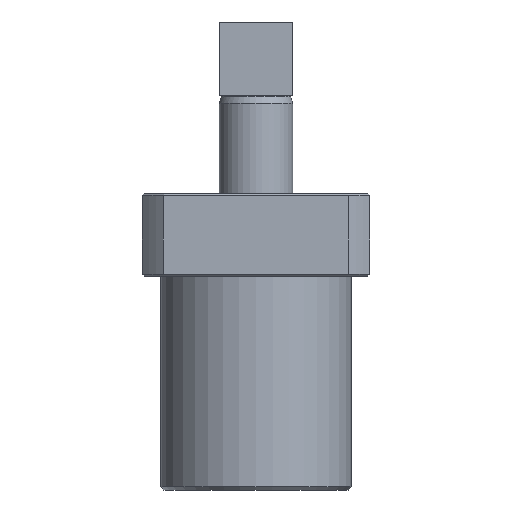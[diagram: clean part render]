
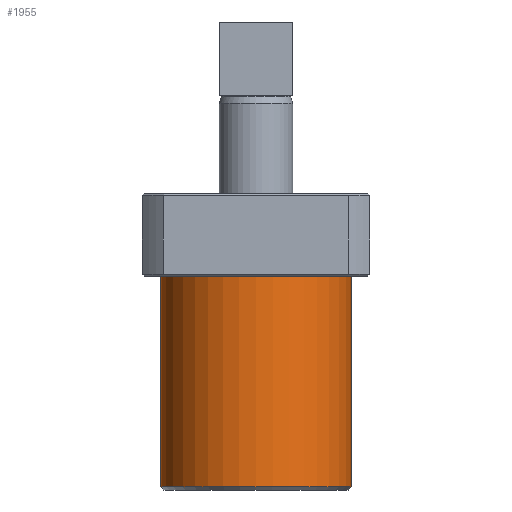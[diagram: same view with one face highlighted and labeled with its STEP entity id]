
A CAD part, front view. The second image highlights one B-rep face of the part: STEP entity #1955.
In plain terms, the highlighted cylindrical face has radius 29 mm (diameter 58 mm), a full revolution.
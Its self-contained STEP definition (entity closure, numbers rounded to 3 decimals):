
#259=CYLINDRICAL_SURFACE('',#2136,29.);
#444=ORIENTED_EDGE('',*,*,#741,.T.);
#445=ORIENTED_EDGE('',*,*,#739,.F.);
#739=EDGE_CURVE('',#906,#906,#1023,.T.);
#741=EDGE_CURVE('',#908,#908,#1025,.T.);
#906=VERTEX_POINT('',#2936);
#908=VERTEX_POINT('',#2942);
#1023=CIRCLE('',#2133,29.);
#1025=CIRCLE('',#2137,29.);
#1153=EDGE_LOOP('',(#444));
#1154=EDGE_LOOP('',(#445));
#1331=FACE_BOUND('',#1153,.T.);
#1332=FACE_BOUND('',#1154,.T.);
#1955=ADVANCED_FACE('',(#1331,#1332),#259,.T.);
#2133=AXIS2_PLACEMENT_3D('',#2935,#2452,#2453);
#2136=AXIS2_PLACEMENT_3D('',#2940,#2458,#2459);
#2137=AXIS2_PLACEMENT_3D('',#2941,#2460,#2461);
#2452=DIRECTION('',(0.,0.,1.));
#2453=DIRECTION('',(0.,-1.,0.));
#2458=DIRECTION('',(0.,0.,1.));
#2459=DIRECTION('',(0.,-1.,0.));
#2460=DIRECTION('',(0.,0.,1.));
#2461=DIRECTION('',(1.,0.,0.));
#2935=CARTESIAN_POINT('',(0.,36.5,-6.1));
#2936=CARTESIAN_POINT('',(0.,7.5,-6.1));
#2940=CARTESIAN_POINT('',(0.,36.5,-71.1));
#2941=CARTESIAN_POINT('',(0.,36.5,-70.1));
#2942=CARTESIAN_POINT('',(29.,36.5,-70.1));
